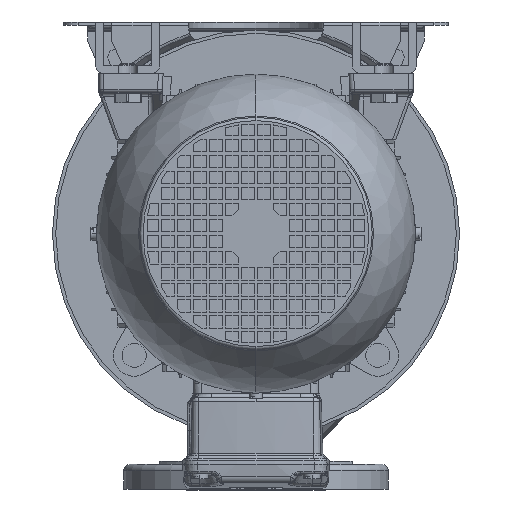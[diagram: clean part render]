
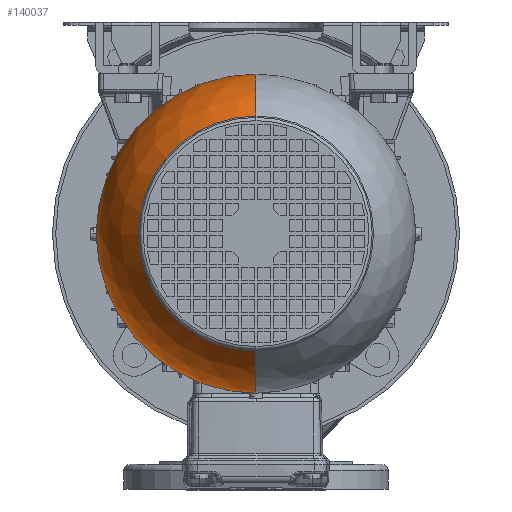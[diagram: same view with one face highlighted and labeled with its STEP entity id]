
A CAD part, front view. The second image highlights one B-rep face of the part: STEP entity #140037.
In plain terms, the highlighted spherical face has radius 99.5 mm.
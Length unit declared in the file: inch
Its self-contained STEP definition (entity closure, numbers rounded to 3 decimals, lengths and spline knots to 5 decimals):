
#6719 = VERTEX_POINT ( 'NONE', #148577 ) ;
#6989 = SPHERICAL_SURFACE ( 'NONE', #83200, 3.91732 ) ;
#7098 = CARTESIAN_POINT ( 'NONE',  ( 0., 0., -7.02151 ) ) ;
#7754 = DIRECTION ( 'NONE',  ( 0., 1., 0. ) ) ;
#10023 = DIRECTION ( 'NONE',  ( 0., 0., 1. ) ) ;
#10889 = DIRECTION ( 'NONE',  ( 0., 0., -1. ) ) ;
#14307 = VERTEX_POINT ( 'NONE', #87187 ) ;
#15767 = CIRCLE ( 'NONE', #135402, 3.91732 ) ;
#22192 = AXIS2_PLACEMENT_3D ( 'NONE', #7098, #78875, #28239 ) ;
#24783 = CIRCLE ( 'NONE', #22192, 2.88544 ) ;
#28239 = DIRECTION ( 'NONE',  ( 0., -1., 0. ) ) ;
#29691 = ORIENTED_EDGE ( 'NONE', *, *, #80749, .T. ) ;
#35267 = VERTEX_POINT ( 'NONE', #68955 ) ;
#39242 = FACE_OUTER_BOUND ( 'NONE', #70409, .T. ) ;
#45968 = ORIENTED_EDGE ( 'NONE', *, *, #128506, .T. ) ;
#46531 = DIRECTION ( 'NONE',  ( 0., 0., 1. ) ) ;
#57631 = CARTESIAN_POINT ( 'NONE',  ( 0., 0., -4.37205 ) ) ;
#61627 = EDGE_CURVE ( 'NONE', #14307, #6719, #15767, .T. ) ;
#68955 = CARTESIAN_POINT ( 'NONE',  ( 0., 2.88544, -7.02151 ) ) ;
#70170 = CARTESIAN_POINT ( 'NONE',  ( 0., 0., -4.37205 ) ) ;
#70409 = EDGE_LOOP ( 'NONE', ( #116073, #45968, #147756, #29691 ) ) ;
#70428 = VERTEX_POINT ( 'NONE', #79599 ) ;
#77960 = CARTESIAN_POINT ( 'NONE',  ( 0., 0., -4.37205 ) ) ;
#78875 = DIRECTION ( 'NONE',  ( 0., 0., 1. ) ) ;
#79599 = CARTESIAN_POINT ( 'NONE',  ( 0., 3.91732, -4.37205 ) ) ;
#80749 = EDGE_CURVE ( 'NONE', #35267, #6719, #24783, .T. ) ;
#83200 = AXIS2_PLACEMENT_3D ( 'NONE', #57631, #10023, #7754 ) ;
#87187 = CARTESIAN_POINT ( 'NONE',  ( 0., -3.91732, -4.37205 ) ) ;
#89483 = AXIS2_PLACEMENT_3D ( 'NONE', #70170, #10889, #144277 ) ;
#106482 = EDGE_CURVE ( 'NONE', #70428, #35267, #146100, .T. ) ;
#112311 = DIRECTION ( 'NONE',  ( 0., 1., 0. ) ) ;
#116073 = ORIENTED_EDGE ( 'NONE', *, *, #61627, .F. ) ;
#117548 = CARTESIAN_POINT ( 'NONE',  ( 0., 0., -4.37205 ) ) ;
#127059 = DIRECTION ( 'NONE',  ( 1., 0., 0. ) ) ;
#128506 = EDGE_CURVE ( 'NONE', #14307, #70428, #151709, .T. ) ;
#128576 = AXIS2_PLACEMENT_3D ( 'NONE', #117548, #153410, #46531 ) ;
#135402 = AXIS2_PLACEMENT_3D ( 'NONE', #77960, #127059, #112311 ) ;
#140037 = ADVANCED_FACE ( 'NONE', ( #39242 ), #6989, .T. ) ;
#144277 = DIRECTION ( 'NONE',  ( 0., 1., 0. ) ) ;
#146100 = CIRCLE ( 'NONE', #128576, 3.91732 ) ;
#147756 = ORIENTED_EDGE ( 'NONE', *, *, #106482, .T. ) ;
#148577 = CARTESIAN_POINT ( 'NONE',  ( 0., -2.88544, -7.02151 ) ) ;
#151709 = CIRCLE ( 'NONE', #89483, 3.91732 ) ;
#153410 = DIRECTION ( 'NONE',  ( -1., 0., 0. ) ) ;
